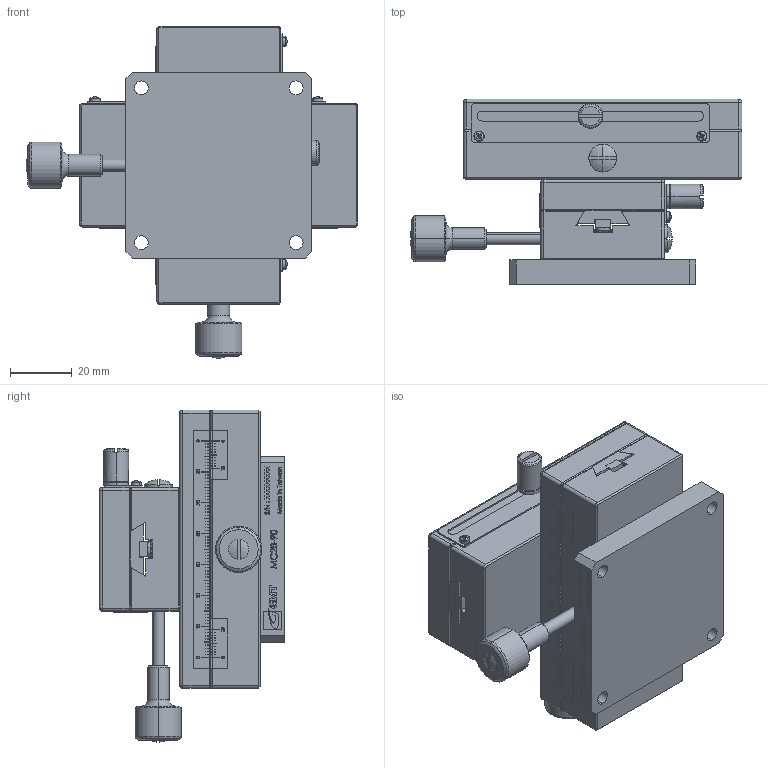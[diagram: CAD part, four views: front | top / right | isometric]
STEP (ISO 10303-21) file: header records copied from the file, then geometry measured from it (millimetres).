
FILE_DESCRIPTION (( 'STEP AP203' ), '1' );
FILE_NAME ('MC2B-90(«¬¿ý).STEP', '2013-08-10T03:54:39', ( '' ), ( '' ), 'SwSTEP 2.0', 'SolidWorks 2013', '' );
FILE_SCHEMA (( 'CONFIG_CONTROL_DESIGN' ));
Products named in the file (5): Group3^MC2B-90(型錄); Group4^MC2B-90(型錄); MC2B-90(型錄); Group1^MC2B-90(型錄); Group2^MC2B-90(型錄)
Assembly tree (4 placements, depth 2):
  MC2B-90(型錄)
    Group1^MC2B-90(型錄)
    Group2^MC2B-90(型錄)
    Group3^MC2B-90(型錄)
    Group4^MC2B-90(型錄)
Bounding box: 107.31 x 60.01 x 107.31 mm (x, y, z)
Volume: 216969.5 mm3; surface area: 62254.5 mm2
Topology: 4 solids, 4 shells, 2436 faces, 6592 edges, 4290 vertices
Faces by surface type: plane 1620, bspline 428, cylinder 186, cone 138, sphere 36, torus 28
Entity records: 104107 total; most frequent: CARTESIAN_POINT 44845, ORIENTED_EDGE 13152, DIRECTION 10470, EDGE_CURVE 6576, LINE 4744, VECTOR 4744, VERTEX_POINT 4290, AXIS2_PLACEMENT_3D 2863
